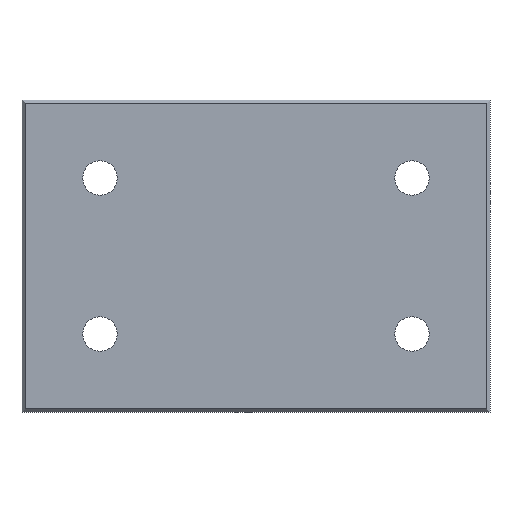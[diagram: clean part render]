
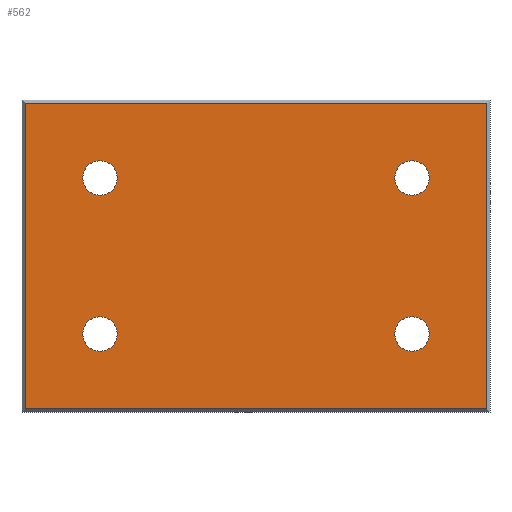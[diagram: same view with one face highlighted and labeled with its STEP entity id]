
A CAD part, front view. The second image highlights one B-rep face of the part: STEP entity #562.
In plain terms, the highlighted planar face has unit normal (0, -1, 0).
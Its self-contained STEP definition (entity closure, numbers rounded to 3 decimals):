
#34=FACE_BOUND('',#194,.T.);
#35=FACE_BOUND('',#195,.T.);
#36=FACE_BOUND('',#196,.T.);
#37=FACE_BOUND('',#197,.T.);
#52=LINE('',#906,#92);
#54=LINE('',#910,#94);
#58=LINE('',#918,#98);
#61=LINE('',#922,#101);
#92=VECTOR('',#739,10.);
#94=VECTOR('',#743,10.);
#98=VECTOR('',#749,10.);
#101=VECTOR('',#754,10.);
#129=PLANE('',#636);
#155=FACE_OUTER_BOUND('',#193,.T.);
#193=EDGE_LOOP('',(#436,#437,#438,#439));
#194=EDGE_LOOP('',(#440));
#195=EDGE_LOOP('',(#441));
#196=EDGE_LOOP('',(#442));
#197=EDGE_LOOP('',(#443));
#240=CIRCLE('',#637,5.5);
#241=CIRCLE('',#638,5.5);
#242=CIRCLE('',#639,5.5);
#243=CIRCLE('',#640,5.5);
#270=VERTEX_POINT('',#903);
#271=VERTEX_POINT('',#905);
#272=VERTEX_POINT('',#909);
#275=VERTEX_POINT('',#917);
#279=VERTEX_POINT('',#934);
#280=VERTEX_POINT('',#936);
#281=VERTEX_POINT('',#938);
#282=VERTEX_POINT('',#940);
#322=EDGE_CURVE('',#270,#271,#52,.T.);
#324=EDGE_CURVE('',#271,#272,#54,.T.);
#328=EDGE_CURVE('',#272,#275,#58,.T.);
#331=EDGE_CURVE('',#275,#270,#61,.T.);
#337=EDGE_CURVE('',#279,#279,#240,.T.);
#338=EDGE_CURVE('',#280,#280,#241,.T.);
#339=EDGE_CURVE('',#281,#281,#242,.T.);
#340=EDGE_CURVE('',#282,#282,#243,.T.);
#436=ORIENTED_EDGE('',*,*,#322,.F.);
#437=ORIENTED_EDGE('',*,*,#331,.F.);
#438=ORIENTED_EDGE('',*,*,#328,.F.);
#439=ORIENTED_EDGE('',*,*,#324,.F.);
#440=ORIENTED_EDGE('',*,*,#337,.T.);
#441=ORIENTED_EDGE('',*,*,#338,.T.);
#442=ORIENTED_EDGE('',*,*,#339,.T.);
#443=ORIENTED_EDGE('',*,*,#340,.T.);
#562=ADVANCED_FACE('',(#155,#34,#35,#36,#37),#129,.F.);
#636=AXIS2_PLACEMENT_3D('',#933,#764,#765);
#637=AXIS2_PLACEMENT_3D('',#935,#766,#767);
#638=AXIS2_PLACEMENT_3D('',#937,#768,#769);
#639=AXIS2_PLACEMENT_3D('',#939,#770,#771);
#640=AXIS2_PLACEMENT_3D('',#941,#772,#773);
#739=DIRECTION('',(0.,0.,1.));
#743=DIRECTION('',(1.,0.,0.));
#749=DIRECTION('',(0.,0.,-1.));
#754=DIRECTION('',(-1.,0.,0.));
#764=DIRECTION('center_axis',(0.,1.,0.));
#765=DIRECTION('ref_axis',(0.,0.,1.));
#766=DIRECTION('center_axis',(0.,1.,0.));
#767=DIRECTION('ref_axis',(1.,0.,0.));
#768=DIRECTION('center_axis',(0.,1.,0.));
#769=DIRECTION('ref_axis',(1.,0.,0.));
#770=DIRECTION('center_axis',(0.,1.,0.));
#771=DIRECTION('ref_axis',(1.,0.,0.));
#772=DIRECTION('center_axis',(0.,1.,0.));
#773=DIRECTION('ref_axis',(1.,0.,0.));
#903=CARTESIAN_POINT('',(-149.,0.,1.));
#905=CARTESIAN_POINT('',(-149.,0.,99.));
#906=CARTESIAN_POINT('',(-149.,0.,25.));
#909=CARTESIAN_POINT('',(-1.,0.,99.));
#910=CARTESIAN_POINT('',(-112.5,0.,99.));
#917=CARTESIAN_POINT('',(-1.,0.,1.));
#918=CARTESIAN_POINT('',(-1.,0.,75.));
#922=CARTESIAN_POINT('',(-37.5,0.,1.));
#933=CARTESIAN_POINT('Origin',(-75.,0.,50.));
#934=CARTESIAN_POINT('',(-30.5,0.,75.));
#935=CARTESIAN_POINT('Origin',(-25.,0.,75.));
#936=CARTESIAN_POINT('',(-130.5,0.,75.));
#937=CARTESIAN_POINT('Origin',(-125.,0.,75.));
#938=CARTESIAN_POINT('',(-30.5,0.,25.));
#939=CARTESIAN_POINT('Origin',(-25.,0.,25.));
#940=CARTESIAN_POINT('',(-130.5,0.,25.));
#941=CARTESIAN_POINT('Origin',(-125.,0.,25.));
